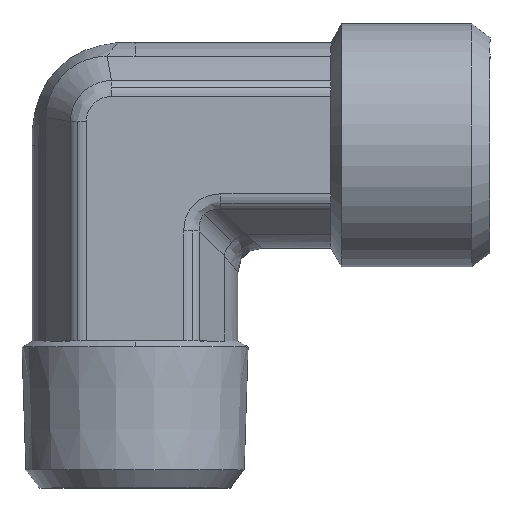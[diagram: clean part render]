
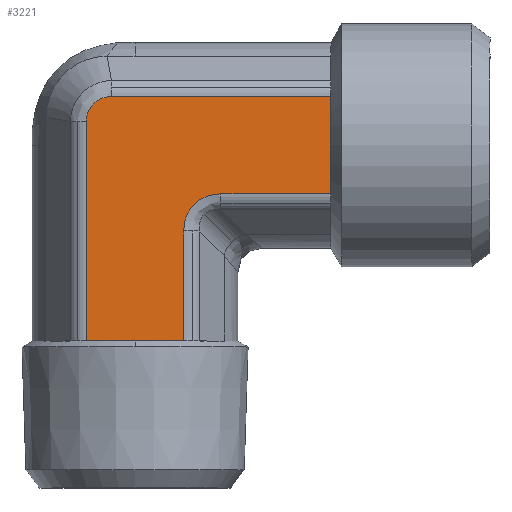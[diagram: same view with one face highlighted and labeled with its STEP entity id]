
A CAD part, top view. The second image highlights one B-rep face of the part: STEP entity #3221.
In plain terms, the highlighted planar face has unit normal (0, 0, 1) as drawn and (0, -1, 0) by its records, which use the part's own axes.
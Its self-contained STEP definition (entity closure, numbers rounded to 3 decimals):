
#361=CARTESIAN_POINT('',(2.515,-8.4,3.984));
#362=VERTEX_POINT('',#361);
#370=CARTESIAN_POINT('',(11.5,-8.4,3.984));
#371=VERTEX_POINT('',#370);
#372=CARTESIAN_POINT('',(2.515,-8.4,3.984));
#373=DIRECTION('',(1.0,0.0,0.0));
#374=VECTOR('',#373,8.985);
#375=LINE('',#372,#374);
#376=EDGE_CURVE('',#362,#371,#375,.T.);
#485=CARTESIAN_POINT('',(-8.484,-8.4,-1.926));
#486=VERTEX_POINT('',#485);
#494=CARTESIAN_POINT('',(-8.484,-8.4,16.0));
#495=VERTEX_POINT('',#494);
#496=CARTESIAN_POINT('',(-8.484,-8.4,-1.926));
#497=DIRECTION('',(0.0,0.0,1.0));
#498=VECTOR('',#497,17.926);
#499=LINE('',#496,#498);
#500=EDGE_CURVE('',#486,#495,#499,.T.);
#753=CARTESIAN_POINT('',(11.5,-8.4,0.));
#754=VERTEX_POINT('',#753);
#2174=CARTESIAN_POINT('',(-4.5,-8.4,16.0));
#2175=VERTEX_POINT('',#2174);
#2239=CARTESIAN_POINT('',(-4.5,-8.4,16.0));
#2240=DIRECTION('',(-1.0,0.0,0.0));
#2241=VECTOR('',#2240,3.984);
#2242=LINE('',#2239,#2241);
#2243=EDGE_CURVE('',#2175,#495,#2242,.T.);
#2316=CARTESIAN_POINT('',(-0.516,-8.4,16.0));
#2317=VERTEX_POINT('',#2316);
#2318=CARTESIAN_POINT('',(-0.516,-8.4,16.0));
#2319=DIRECTION('',(-1.0,0.0,0.0));
#2320=VECTOR('',#2319,3.984);
#2321=LINE('',#2318,#2320);
#2322=EDGE_CURVE('',#2317,#2175,#2321,.T.);
#2420=CARTESIAN_POINT('',(11.5,-8.4,-3.984));
#2421=VERTEX_POINT('',#2420);
#2422=CARTESIAN_POINT('',(11.5,-8.4,-3.984));
#2423=DIRECTION('',(0.0,0.0,1.0));
#2424=VECTOR('',#2423,3.984);
#2425=LINE('',#2422,#2424);
#2426=EDGE_CURVE('',#2421,#754,#2425,.T.);
#2444=CARTESIAN_POINT('',(11.5,-8.4,0.));
#2445=DIRECTION('',(0.0,0.0,1.0));
#2446=VECTOR('',#2445,3.984);
#2447=LINE('',#2444,#2446);
#2448=EDGE_CURVE('',#754,#371,#2447,.T.);
#2905=CARTESIAN_POINT('',(-6.426,-8.4,-3.984));
#2906=VERTEX_POINT('',#2905);
#2914=CARTESIAN_POINT('',(-8.484,-8.4,-1.926));
#2915=CARTESIAN_POINT('',(-8.484,-8.4,-2.06));
#2916=CARTESIAN_POINT('',(-8.47,-8.4,-2.195));
#2917=CARTESIAN_POINT('',(-8.402,-8.4,-2.54));
#2918=CARTESIAN_POINT('',(-8.326,-8.4,-2.743));
#2919=CARTESIAN_POINT('',(-8.051,-8.4,-3.233));
#2920=CARTESIAN_POINT('',(-7.806,-8.4,-3.49));
#2921=CARTESIAN_POINT('',(-7.186,-8.4,-3.876));
#2922=CARTESIAN_POINT('',(-6.806,-8.4,-3.984));
#2923=CARTESIAN_POINT('',(-6.426,-8.4,-3.984));
#2924=B_SPLINE_CURVE_WITH_KNOTS('',3,(#2914,#2915,#2916,#2917,#2918,#2919,#2920,#2921,#2922,#2923),.UNSPECIFIED.,.F.,.U.,(4,2,2,2,4),(-3.216,-2.814,-2.171,-1.142,0.0),.UNSPECIFIED.);
#2925=EDGE_CURVE('',#2906,#486,#2924,.F.);
#2952=CARTESIAN_POINT('',(11.5,-8.4,-3.984));
#2953=DIRECTION('',(-1.0,0.0,0.0));
#2954=VECTOR('',#2953,17.926);
#2955=LINE('',#2952,#2954);
#2956=EDGE_CURVE('',#2421,#2906,#2955,.T.);
#3088=CARTESIAN_POINT('',(-0.516,-8.4,7.015));
#3089=VERTEX_POINT('',#3088);
#3090=CARTESIAN_POINT('',(-0.516,-8.4,16.0));
#3091=DIRECTION('',(0.0,0.0,-1.0));
#3092=VECTOR('',#3091,8.985);
#3093=LINE('',#3090,#3092);
#3094=EDGE_CURVE('',#2317,#3089,#3093,.T.);
#3177=CARTESIAN_POINT('',(3.525,-8.4,8.025));
#3178=DIRECTION('',(0.,-1.,0.));
#3179=DIRECTION('',(-0.707,0.,-0.707));
#3180=AXIS2_PLACEMENT_3D('',#3177,#3178,#3179);
#3181=ELLIPSE('',#3180,4.518,3.5);
#3182=EDGE_CURVE('',#3089,#362,#3181,.T.);
#3204=CARTESIAN_POINT('',(-4.5,-8.4,-3.175));
#3205=DIRECTION('',(0.0,-1.0,0.0));
#3206=DIRECTION('',(0.0,0.0,-1.0));
#3207=AXIS2_PLACEMENT_3D('',#3204,#3205,#3206);
#3208=PLANE('',#3207);
#3209=ORIENTED_EDGE('',*,*,#2956,.F.);
#3210=ORIENTED_EDGE('',*,*,#2426,.T.);
#3211=ORIENTED_EDGE('',*,*,#2448,.T.);
#3212=ORIENTED_EDGE('',*,*,#376,.F.);
#3213=ORIENTED_EDGE('',*,*,#3182,.F.);
#3214=ORIENTED_EDGE('',*,*,#3094,.F.);
#3215=ORIENTED_EDGE('',*,*,#2322,.T.);
#3216=ORIENTED_EDGE('',*,*,#2243,.T.);
#3217=ORIENTED_EDGE('',*,*,#500,.F.);
#3218=ORIENTED_EDGE('',*,*,#2925,.F.);
#3219=EDGE_LOOP('',(#3209,#3210,#3211,#3212,#3213,#3214,#3215,#3216,#3217,#3218));
#3220=FACE_OUTER_BOUND('',#3219,.T.);
#3221=ADVANCED_FACE('',(#3220),#3208,.T.);
